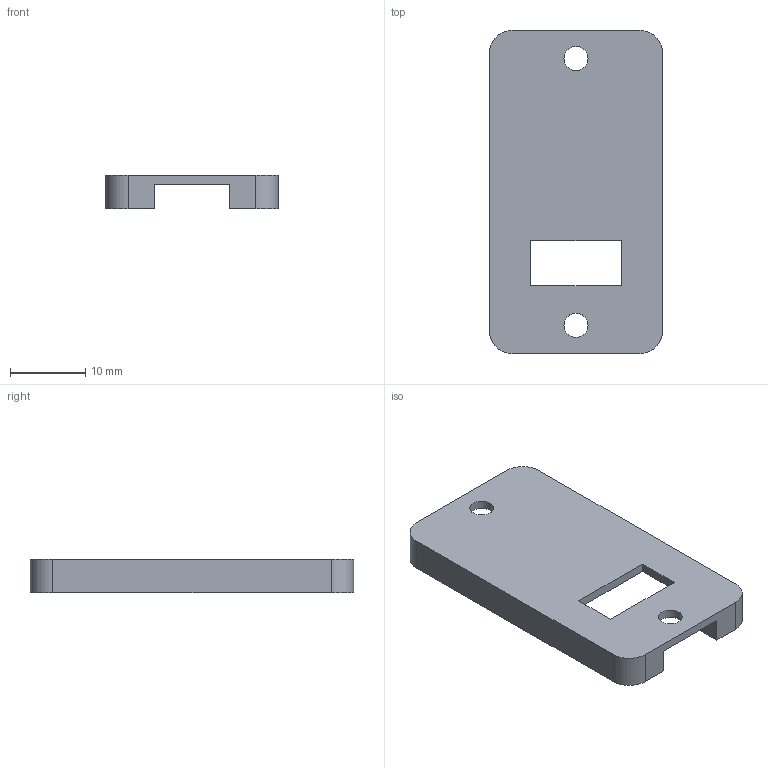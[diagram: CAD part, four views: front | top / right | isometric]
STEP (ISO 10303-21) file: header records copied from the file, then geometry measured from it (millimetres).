
FILE_DESCRIPTION(/* description */ ('STEP AP242','CAx-IF Rec.Pracs.---Representation and Presentation of Product Manufacturing Information (PMI)---4.0---2014-10-13','CAx-IF Rec.Pracs.---3D Tessellated Geometry---0.4---2014-09-14','2;1'),/* implementation_level */ '2;1');
FILE_NAME(/* name */ '67516f84fb67772fa30a8ced',/* time_stamp */ '2024-12-05T09:16:53Z',/* author */ (''),/* organization */ (''),/* preprocessor_version */ 'ST-DEVELOPER v20',/* originating_system */ 'ONSHAPE BY PTC INC, 1.190',/* authorisation */ ' ');
FILE_SCHEMA (('AP242_MANAGED_MODEL_BASED_3D_ENGINEERING_MIM_LF { 1 0 10303 442 1 1 4 }'));
Length unit declared in the file: metre
Products named in the file (1): I3D02 - ESP01s Support
Bounding box: 23 x 43 x 4.4 mm (x, y, z)
Volume: 1869.7 mm3; surface area: 2678.8 mm2
Topology: 1 solids, 1 shells, 32 faces, 92 edges, 62 vertices
Faces by surface type: plane 22, cylinder 10
Full cylindrical faces by diameter (mm): 3.2 x2
Entity records: 1058 total; most frequent: CARTESIAN_POINT 181, ORIENTED_EDGE 176, DIRECTION 174, EDGE_CURVE 88, LINE 68, VECTOR 68, VERTEX_POINT 60, AXIS2_PLACEMENT_3D 53
